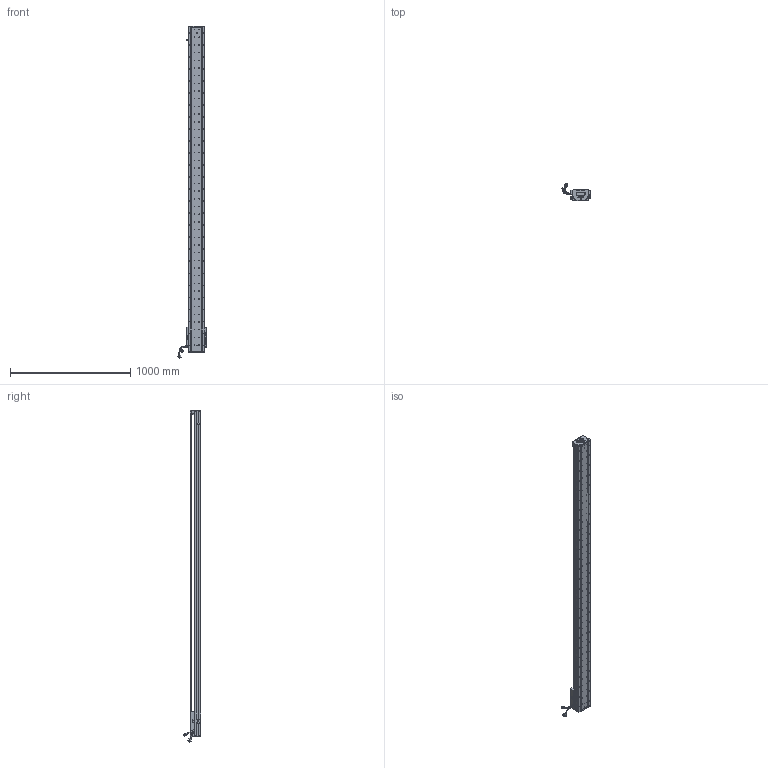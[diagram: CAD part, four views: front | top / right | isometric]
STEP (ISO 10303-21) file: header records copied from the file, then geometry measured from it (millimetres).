
FILE_DESCRIPTION (( 'STEP AP203' ), '1' );
FILE_NAME ('Z2-RY140D-1-L500-B-K.SLDASM_2450.step', '2021-05-17T07:49:48', ( '盈信电脑' ), ( '东莞市道滘镇水果街19号' ), 'SwSTEP 2.0', 'SolidWorks 2016', '' );
FILE_SCHEMA (( 'CONFIG_CONTROL_DESIGN' ));
Length unit declared in the file: millimetre
Products named in the file (36): HOLDER0; SEAL; PBU_SHEET; LABEL-Part-1; 140-Z-臏賑輸盄裔(21遴); Z2-RY140-L500直线电机模组底座_2450; SCREW-M1.7; SEAL-Part-1; 140雄赽晤鎢ん堤盄; Z-RY140詩湍狟揤裔; 榋妏寠巭燃_暯_M2_2; SCREW-M1.6-3; Z2-RY140-L500詩湍100mm遵_2450; SHIELDPLATE; Z2-RY140圉猾敕臏賑輸(21遴); Z-140詩湍傷裔啣; SCALE-Part-2; LABEL; SCREW-M1.6; 140蚥薯蝶輸; Z2-RY140D-1-L500-B-K.SLDASM_2450; SCALE-Part-1; COVER-Part-1; Z-RY140感应器672光电感应片; 080黍杅芛假蚾釱21遴; HARNESS-Part-1; HARNESS-Part-2; COVER; SCALE; SCREW-M1.6-2; SCREW-M1.6-1; 覜茼ん672; PSLH080_PSLF2; Z-RY140詩湍奻揤裔; HARNESS; SCREW-M1.7-1
Assembly tree (41 placements, depth 4):
  Z2-RY140D-1-L500-B-K.SLDASM_2450
    Z2-RY140-L500直线电机模组底座_2450
    Z-RY140感应器672光电感应片
    Z2-RY140圉猾敕臏賑輸(21遴)
    覜茼ん672  x3
    Z2-RY140-L500詩湍100mm遵_2450
    PSLH080_PSLF2
      SCALE
        SCALE-Part-1
        SCALE-Part-2
      HARNESS
        HARNESS-Part-1
        HARNESS-Part-2
      LABEL
        LABEL-Part-1
      COVER
        COVER-Part-1
      SEAL
        SEAL-Part-1
      榋妏寠巭燃_暯_M2_2
      SHIELDPLATE
      SCREW-M1.7
      SCREW-M1.7-1
      PBU_SHEET
      SCREW-M1.6
      SCREW-M1.6-1
      SCREW-M1.6-2
      SCREW-M1.6-3
      HOLDER0
    080黍杅芛假蚾釱21遴
    140-Z-臏賑輸盄裔(21遴)
    Z-140詩湍傷裔啣  x2
    Z-RY140詩湍狟揤裔  x2
    Z-RY140詩湍奻揤裔  x2
    140蚥薯蝶輸  x2
    140雄赽晤鎢ん堤盄
Bounding box: 239.79 x 143.77 x 2760.87 mm (x, y, z)
Volume: 8623204.4 mm3; surface area: 2267550.9 mm2
Topology: 36 solids, 36 shells, 4174 faces, 11378 edges, 7211 vertices
Faces by surface type: cylinder 2268, plane 1380, cone 394, torus 79, bspline 53
Entity records: 133118 total; most frequent: CARTESIAN_POINT 37935, ORIENTED_EDGE 19676, DIRECTION 18138, EDGE_CURVE 9838, AXIS2_PLACEMENT_3D 6750, VERTEX_POINT 6379, LINE 4638, VECTOR 4638
